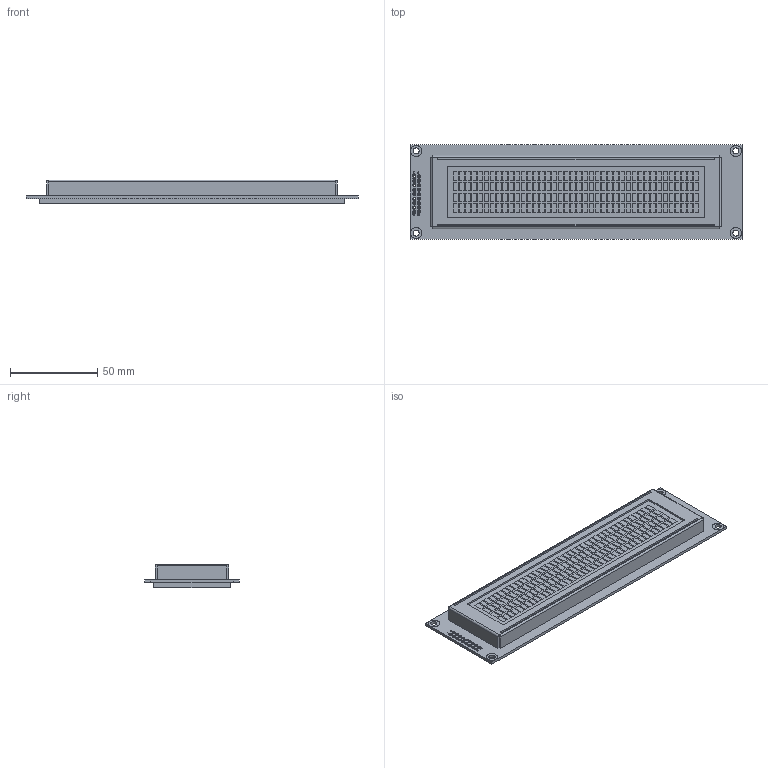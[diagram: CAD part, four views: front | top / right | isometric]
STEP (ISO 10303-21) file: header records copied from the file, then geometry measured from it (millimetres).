
FILE_DESCRIPTION (( 'STEP AP214' ), '1' );
FILE_NAME ('CFAH4004A1.STEP', '2025-03-05T22:23:58', ( '' ), ( '' ), 'SwSTEP 2.0', 'SolidWorks 2021', '' );
FILE_SCHEMA (( 'AUTOMOTIVE_DESIGN' ));
Length unit declared in the file: millimetre
Products named in the file (1): CFAH4004A1
Bounding box: 190 x 54 x 13.6 mm (x, y, z)
Volume: 97217.9 mm3; surface area: 28676.5 mm2
Topology: 23 solids, 23 shells, 1168 faces, 3230 edges, 2364 vertices
Faces by surface type: plane 678, bspline 348, cylinder 142
Entity records: 57628 total; most frequent: CARTESIAN_POINT 26711, ORIENTED_EDGE 6460, DIRECTION 4460, EDGE_CURVE 3230, VERTEX_POINT 2364, LINE 2250, VECTOR 2250, EDGE_LOOP 1512
